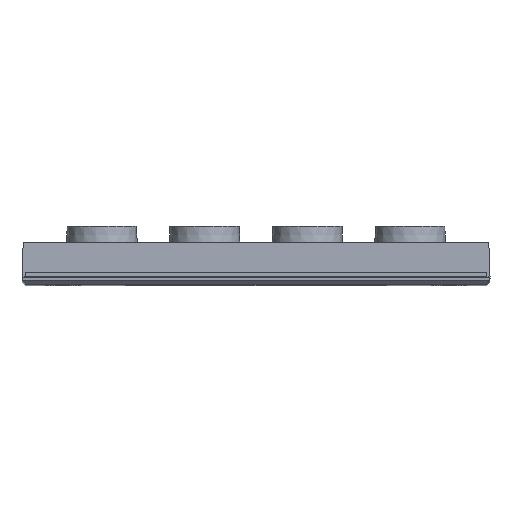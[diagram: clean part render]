
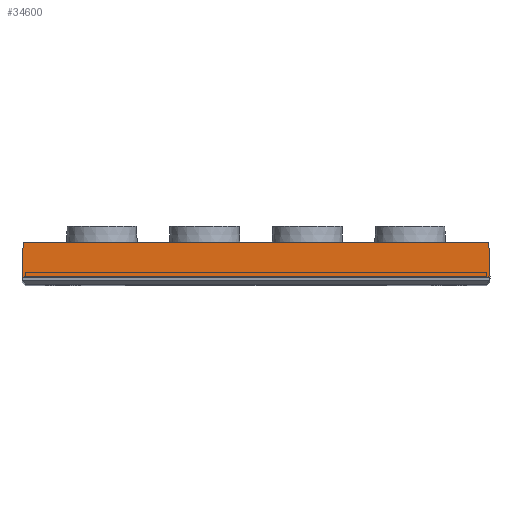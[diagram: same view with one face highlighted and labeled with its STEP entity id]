
A CAD part, top view. The second image highlights one B-rep face of the part: STEP entity #34600.
In plain terms, the highlighted planar face has unit normal (0, 0.035, 0.999).
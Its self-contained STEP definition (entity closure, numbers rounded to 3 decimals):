
#1556=PLANE('',#37807);
#2457=FACE_OUTER_BOUND('',#4699,.T.);
#4699=EDGE_LOOP('',(#25076,#25077,#25078,#25079));
#7229=LINE('',#55454,#9790);
#7650=LINE('',#57903,#10211);
#7651=LINE('',#57904,#10212);
#7652=LINE('',#57905,#10213);
#9790=VECTOR('',#43786,10.);
#10211=VECTOR('',#45177,10.);
#10212=VECTOR('',#45178,10.);
#10213=VECTOR('',#45179,10.);
#14971=VERTEX_POINT('',#55451);
#14972=VERTEX_POINT('',#55453);
#15814=VERTEX_POINT('',#57901);
#15815=VERTEX_POINT('',#57902);
#18286=EDGE_CURVE('',#14971,#14972,#7229,.T.);
#19192=EDGE_CURVE('',#15814,#15815,#7650,.T.);
#19193=EDGE_CURVE('',#14972,#15815,#7651,.T.);
#19194=EDGE_CURVE('',#14971,#15814,#7652,.T.);
#25076=ORIENTED_EDGE('',*,*,#19192,.T.);
#25077=ORIENTED_EDGE('',*,*,#19193,.F.);
#25078=ORIENTED_EDGE('',*,*,#18286,.F.);
#25079=ORIENTED_EDGE('',*,*,#19194,.T.);
#34600=ADVANCED_FACE('',(#2457),#1556,.T.);
#37807=AXIS2_PLACEMENT_3D('',#57900,#45175,#45176);
#43786=DIRECTION('',(1.,0.,0.));
#45175=DIRECTION('center_axis',(0.,0.035,
0.999));
#45176=DIRECTION('ref_axis',(-1.,0.,0.));
#45177=DIRECTION('',(1.,0.,0.));
#45178=DIRECTION('',(0.035,-0.999,0.035));
#45179=DIRECTION('',(-0.035,-0.999,0.035));
#55451=CARTESIAN_POINT('',(-72.5,0.,157.811));
#55453=CARTESIAN_POINT('',(72.5,0.,157.811));
#55454=CARTESIAN_POINT('',(-72.5,0.,157.811));
#57900=CARTESIAN_POINT('Origin',(-72.5,0.,157.811));
#57901=CARTESIAN_POINT('',(-72.875,-10.75,158.186));
#57902=CARTESIAN_POINT('',(72.875,-10.75,158.186));
#57903=CARTESIAN_POINT('',(-72.5,-10.75,158.186));
#57904=CARTESIAN_POINT('',(72.412,2.526,157.723));
#57905=CARTESIAN_POINT('',(-72.308,5.497,157.619));
